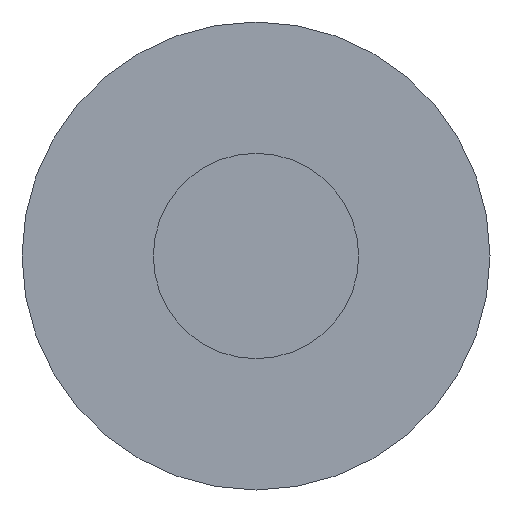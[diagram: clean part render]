
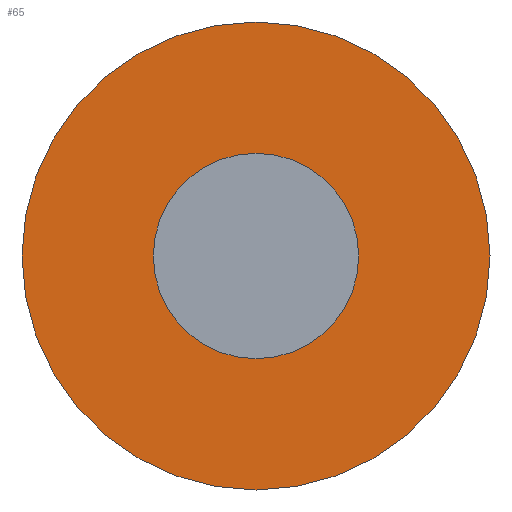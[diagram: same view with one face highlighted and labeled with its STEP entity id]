
A CAD part, front view. The second image highlights one B-rep face of the part: STEP entity #65.
In plain terms, the highlighted planar face has unit normal (0, -1, 0).
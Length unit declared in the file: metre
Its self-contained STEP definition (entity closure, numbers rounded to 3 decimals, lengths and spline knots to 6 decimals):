
#18=ORIENTED_EDGE('',*,*,#27,.F.);
#19=ORIENTED_EDGE('',*,*,#26,.T.);
#26=EDGE_CURVE('',#31,#31,#36,.T.);
#27=EDGE_CURVE('',#32,#32,#37,.T.);
#31=VERTEX_POINT('',#123);
#32=VERTEX_POINT('',#126);
#36=CIRCLE('',#85,0.00216);
#37=CIRCLE('',#87,0.00492);
#43=EDGE_LOOP('',(#18));
#44=EDGE_LOOP('',(#19));
#53=FACE_BOUND('',#43,.T.);
#54=FACE_BOUND('',#44,.T.);
#61=PLANE('',#86);
#65=ADVANCED_FACE('',(#53,#54),#61,.F.);
#85=AXIS2_PLACEMENT_3D('',#122,#101,#102);
#86=AXIS2_PLACEMENT_3D('',#124,#103,#104);
#87=AXIS2_PLACEMENT_3D('',#125,#105,#106);
#101=DIRECTION('',(0.,1.,0.));
#102=DIRECTION('',(0.,0.,1.));
#103=DIRECTION('',(0.,1.,0.));
#104=DIRECTION('',(0.,0.,1.));
#105=DIRECTION('',(0.,1.,0.));
#106=DIRECTION('',(0.,0.,1.));
#122=CARTESIAN_POINT('',(0.,0.029735,0.));
#123=CARTESIAN_POINT('',(0.,0.029735,0.00216));
#124=CARTESIAN_POINT('',(0.00354,0.029735,0.));
#125=CARTESIAN_POINT('',(0.,0.029735,0.));
#126=CARTESIAN_POINT('',(0.,0.029735,0.00492));
